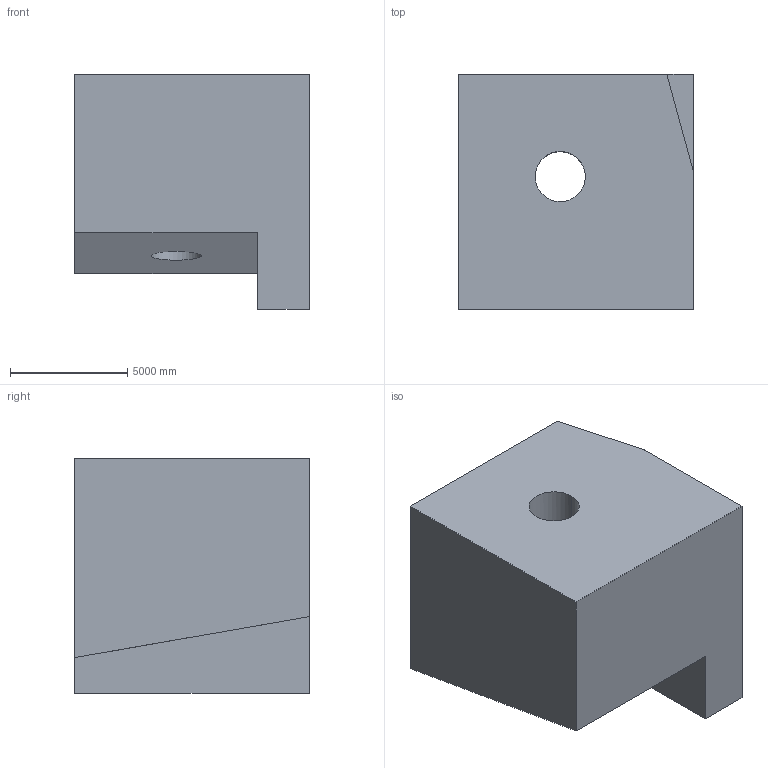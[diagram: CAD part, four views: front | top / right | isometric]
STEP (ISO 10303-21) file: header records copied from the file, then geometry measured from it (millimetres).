
FILE_DESCRIPTION (( 'STEP AP203' ), '1' );
FILE_NAME ('246.STEP', '2022-09-07T12:25:48', ( 'user' ), ( '' ), 'SwSTEP 2.0', 'SolidWorks 2021', '' );
FILE_SCHEMA (( 'CONFIG_CONTROL_DESIGN' ));
Length unit declared in the file: centimetre
Products named in the file (1): 246
Bounding box: 10000 x 10000 x 10000 mm (x, y, z)
Volume: 781893513838.6 mm3; surface area: 606922378.1 mm2
Topology: 1 solids, 1 shells, 12 faces, 30 edges, 20 vertices
Faces by surface type: plane 10, cylinder 2
Entity records: 437 total; most frequent: CARTESIAN_POINT 69, ORIENTED_EDGE 60, DIRECTION 56, EDGE_CURVE 30, VECTOR 26, LINE 26, VERTEX_POINT 20, AXIS2_PLACEMENT_3D 15
